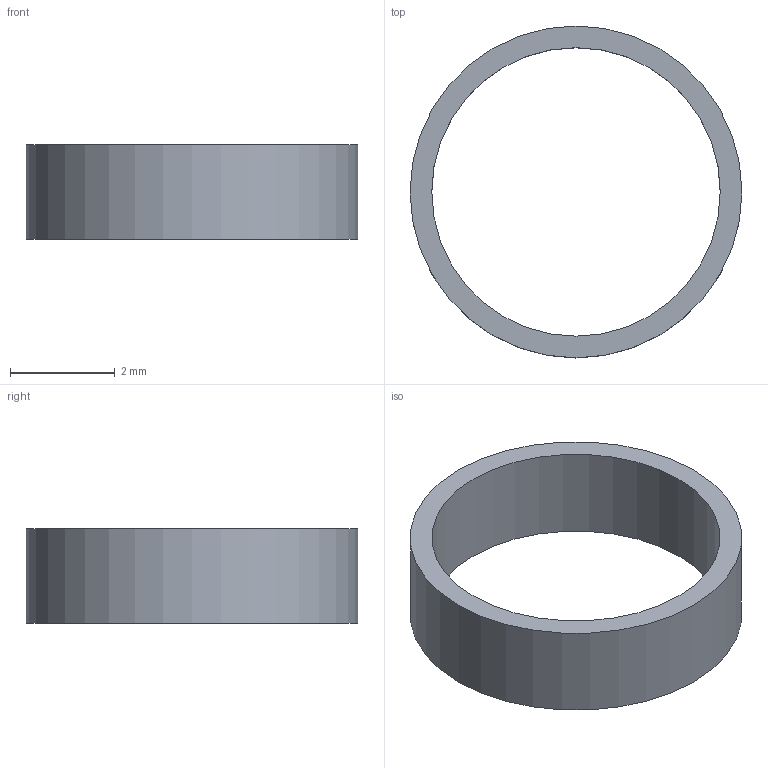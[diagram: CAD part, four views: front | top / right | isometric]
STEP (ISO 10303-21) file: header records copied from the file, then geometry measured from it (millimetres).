
FILE_DESCRIPTION(('Open CASCADE Model'),'2;1');
FILE_NAME('Open CASCADE Shape Model','2026-11-14T12:29:52',('Author'),( 'Open CASCADE'),'Open CASCADE STEP processor 8.0','Open CASCADE 8.0' ,'Unknown');
FILE_SCHEMA(('AUTOMOTIVE_DESIGN { 1 0 10303 214 1 1 1 1 }'));
Length unit declared in the file: millimetre
Products named in the file (1): Open CASCADE STEP translator 8.0 6
Bounding box: 6.35 x 6.35 x 1.8 mm (x, y, z)
Volume: 13.9 mm3; surface area: 82.6 mm2
Topology: 1 solids, 1 shells, 4 faces, 6 edges, 4 vertices
Faces by surface type: cylinder 2, plane 2
Full cylindrical faces by diameter (mm): 5.52 x1, 6.35 x1
Entity records: 186 total; most frequent: DIRECTION 32, CARTESIAN_POINT 27, ORIENTED_EDGE 12, PCURVE 12, DEFINITIONAL_REPRESENTATION 12, LINE 10, VECTOR 10, AXIS2_PLACEMENT_3D 9
